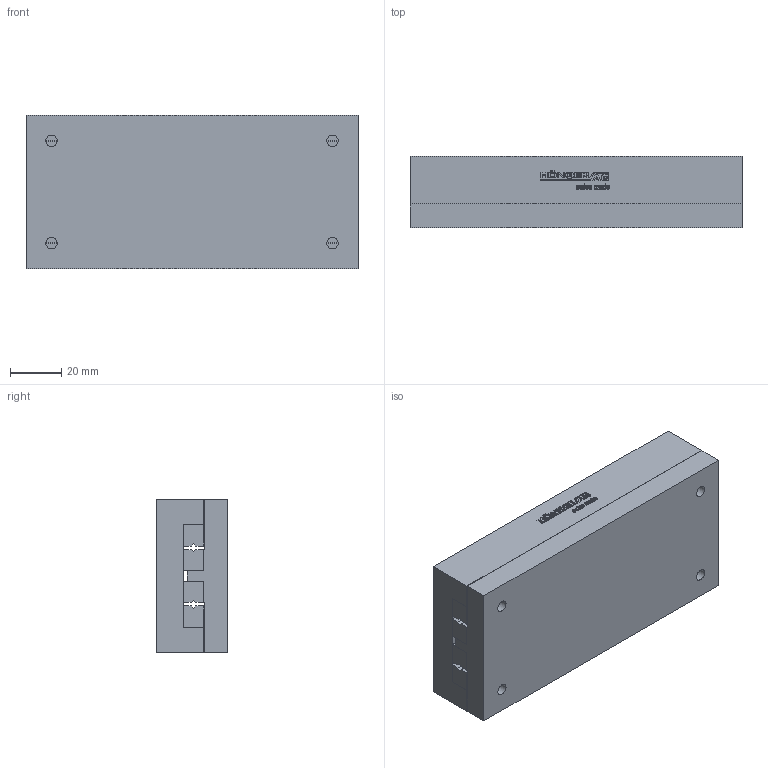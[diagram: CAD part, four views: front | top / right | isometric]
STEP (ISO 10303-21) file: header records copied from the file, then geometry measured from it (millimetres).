
FILE_DESCRIPTION(/* description */ ('STEP AP214'),/* implementation_level */ '2;1');
FILE_NAME(/* name */ 'NK 3-130-B(0)',/* time_stamp */ '2025-04-22T17:49:12+02:00',/* author */ ('License CC BY-ND 4.0'),/* organization */ ('CADENAS'),/* preprocessor_version */ 'ST-DEVELOPER v19.3',/* originating_system */ 'PARTsolutions',/* authorisation */ ' ');
FILE_SCHEMA (('AUTOMOTIVE_DESIGN {1 0 10303 214 3 1 1}'));
Length unit declared in the file: millimetre
Products named in the file (3): NK 3-130-B(0); NK 3-130-B_1; NK 3-130-B_2
Assembly tree (2 placements, depth 2):
  NK 3-130-B(0)
    NK 3-130-B_1
    NK 3-130-B_2
Bounding box: 130 x 28 x 60 mm (x, y, z)
Volume: 211422.2 mm3; surface area: 55800.4 mm2
Topology: 2 solids, 2 shells, 597 faces, 1694 edges, 1124 vertices
Faces by surface type: cylinder 308, plane 273, cone 16
Full cylindrical faces by diameter (mm): 3.242 x8, 4.5 x4, 7.5 x4
Entity records: 19543 total; most frequent: DIRECTION 3502, CARTESIAN_POINT 3426, ORIENTED_EDGE 3324, EDGE_CURVE 1662, AXIS2_PLACEMENT_3D 1256, VERTEX_POINT 1116, LINE 990, VECTOR 990
